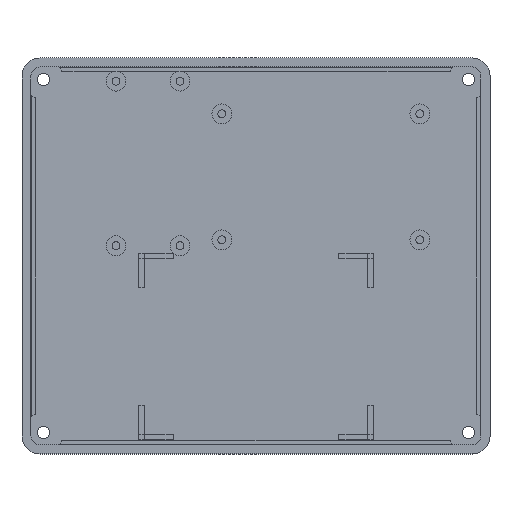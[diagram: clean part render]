
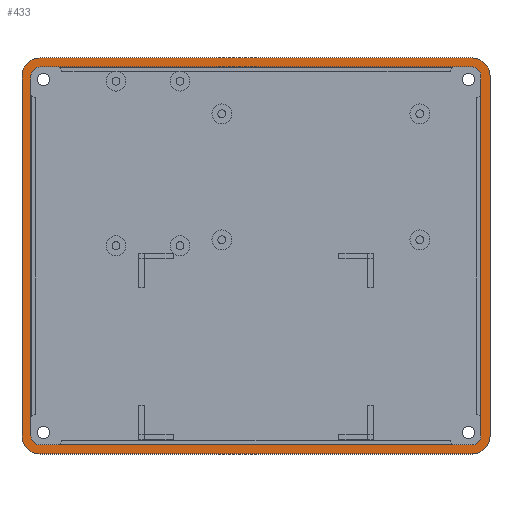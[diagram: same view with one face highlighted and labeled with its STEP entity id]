
A CAD part, top view. The second image highlights one B-rep face of the part: STEP entity #433.
In plain terms, the highlighted planar face has unit normal (0, 0, 1).
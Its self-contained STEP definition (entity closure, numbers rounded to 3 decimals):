
#143 = VERTEX_POINT('',#144);
#144 = CARTESIAN_POINT('',(-60.,0.,2.5));
#150 = EDGE_CURVE('',#143,#151,#153,.T.);
#151 = VERTEX_POINT('',#152);
#152 = CARTESIAN_POINT('',(60.,0.,2.5));
#153 = LINE('',#154,#155);
#154 = CARTESIAN_POINT('',(-132.5,0.,2.5));
#155 = VECTOR('',#156,1.);
#156 = DIRECTION('',(1.,0.,-0.));
#172 = EDGE_CURVE('',#143,#173,#175,.T.);
#173 = VERTEX_POINT('',#174);
#174 = CARTESIAN_POINT('',(-65.,5.,2.5));
#175 = CIRCLE('',#176,5.);
#176 = AXIS2_PLACEMENT_3D('',#177,#178,#179);
#177 = CARTESIAN_POINT('',(-60.,5.,2.5));
#178 = DIRECTION('',(0.,0.,-1.));
#179 = DIRECTION('',(0.,-1.,0.));
#197 = EDGE_CURVE('',#198,#151,#200,.T.);
#198 = VERTEX_POINT('',#199);
#199 = CARTESIAN_POINT('',(65.,5.,2.5));
#200 = CIRCLE('',#201,5.);
#201 = AXIS2_PLACEMENT_3D('',#202,#203,#204);
#202 = CARTESIAN_POINT('',(60.,5.,2.5));
#203 = DIRECTION('',(0.,0.,-1.));
#204 = DIRECTION('',(0.,-1.,0.));
#225 = VERTEX_POINT('',#226);
#226 = CARTESIAN_POINT('',(-65.,105.,2.5));
#232 = EDGE_CURVE('',#225,#173,#233,.T.);
#233 = LINE('',#234,#235);
#234 = CARTESIAN_POINT('',(-65.,-69.579,2.5));
#235 = VECTOR('',#236,1.);
#236 = DIRECTION('',(0.,-1.,0.));
#249 = VERTEX_POINT('',#250);
#250 = CARTESIAN_POINT('',(65.,105.,2.5));
#256 = EDGE_CURVE('',#249,#198,#257,.T.);
#257 = LINE('',#258,#259);
#258 = CARTESIAN_POINT('',(65.,-69.579,2.5));
#259 = VECTOR('',#260,1.);
#260 = DIRECTION('',(0.,-1.,0.));
#271 = VERTEX_POINT('',#272);
#272 = CARTESIAN_POINT('',(-60.,110.,2.5));
#280 = EDGE_CURVE('',#271,#225,#281,.T.);
#281 = CIRCLE('',#282,5.);
#282 = AXIS2_PLACEMENT_3D('',#283,#284,#285);
#283 = CARTESIAN_POINT('',(-60.,105.,2.5));
#284 = DIRECTION('',(0.,0.,1.));
#285 = DIRECTION('',(-0.,1.,0.));
#296 = VERTEX_POINT('',#297);
#297 = CARTESIAN_POINT('',(60.,110.,2.5));
#305 = EDGE_CURVE('',#249,#296,#306,.T.);
#306 = CIRCLE('',#307,5.);
#307 = AXIS2_PLACEMENT_3D('',#308,#309,#310);
#308 = CARTESIAN_POINT('',(60.,105.,2.5));
#309 = DIRECTION('',(0.,0.,1.));
#310 = DIRECTION('',(-0.,1.,0.));
#323 = EDGE_CURVE('',#296,#271,#324,.T.);
#324 = LINE('',#325,#326);
#325 = CARTESIAN_POINT('',(-132.5,110.,2.5));
#326 = VECTOR('',#327,1.);
#327 = DIRECTION('',(-1.,0.,0.));
#433 = ADVANCED_FACE('',(#434,#444),#514,.T.);
#434 = FACE_BOUND('',#435,.T.);
#435 = EDGE_LOOP('',(#436,#437,#438,#439,#440,#441,#442,#443));
#436 = ORIENTED_EDGE('',*,*,#172,.F.);
#437 = ORIENTED_EDGE('',*,*,#150,.T.);
#438 = ORIENTED_EDGE('',*,*,#197,.F.);
#439 = ORIENTED_EDGE('',*,*,#256,.F.);
#440 = ORIENTED_EDGE('',*,*,#305,.T.);
#441 = ORIENTED_EDGE('',*,*,#323,.T.);
#442 = ORIENTED_EDGE('',*,*,#280,.T.);
#443 = ORIENTED_EDGE('',*,*,#232,.T.);
#444 = FACE_BOUND('',#445,.T.);
#445 = EDGE_LOOP('',(#446,#457,#465,#474,#482,#491,#499,#508));
#446 = ORIENTED_EDGE('',*,*,#447,.T.);
#447 = EDGE_CURVE('',#448,#450,#452,.T.);
#448 = VERTEX_POINT('',#449);
#449 = CARTESIAN_POINT('',(-60.,2.5,2.5));
#450 = VERTEX_POINT('',#451);
#451 = CARTESIAN_POINT('',(-62.5,5.,2.5));
#452 = CIRCLE('',#453,2.5);
#453 = AXIS2_PLACEMENT_3D('',#454,#455,#456);
#454 = CARTESIAN_POINT('',(-60.,5.,2.5));
#455 = DIRECTION('',(0.,0.,-1.));
#456 = DIRECTION('',(0.,-1.,0.));
#457 = ORIENTED_EDGE('',*,*,#458,.T.);
#458 = EDGE_CURVE('',#450,#459,#461,.T.);
#459 = VERTEX_POINT('',#460);
#460 = CARTESIAN_POINT('',(-62.5,105.,2.5));
#461 = LINE('',#462,#463);
#462 = CARTESIAN_POINT('',(-62.5,30.421,2.5));
#463 = VECTOR('',#464,1.);
#464 = DIRECTION('',(0.,1.,0.));
#465 = ORIENTED_EDGE('',*,*,#466,.F.);
#466 = EDGE_CURVE('',#467,#459,#469,.T.);
#467 = VERTEX_POINT('',#468);
#468 = CARTESIAN_POINT('',(-60.,107.5,2.5));
#469 = CIRCLE('',#470,2.5);
#470 = AXIS2_PLACEMENT_3D('',#471,#472,#473);
#471 = CARTESIAN_POINT('',(-60.,105.,2.5));
#472 = DIRECTION('',(0.,0.,1.));
#473 = DIRECTION('',(-0.,1.,0.));
#474 = ORIENTED_EDGE('',*,*,#475,.T.);
#475 = EDGE_CURVE('',#467,#476,#478,.T.);
#476 = VERTEX_POINT('',#477);
#477 = CARTESIAN_POINT('',(60.,107.5,2.5));
#478 = LINE('',#479,#480);
#479 = CARTESIAN_POINT('',(-65.,107.5,2.5));
#480 = VECTOR('',#481,1.);
#481 = DIRECTION('',(1.,0.,-0.));
#482 = ORIENTED_EDGE('',*,*,#483,.F.);
#483 = EDGE_CURVE('',#484,#476,#486,.T.);
#484 = VERTEX_POINT('',#485);
#485 = CARTESIAN_POINT('',(62.5,105.,2.5));
#486 = CIRCLE('',#487,2.5);
#487 = AXIS2_PLACEMENT_3D('',#488,#489,#490);
#488 = CARTESIAN_POINT('',(60.,105.,2.5));
#489 = DIRECTION('',(0.,0.,1.));
#490 = DIRECTION('',(-0.,1.,0.));
#491 = ORIENTED_EDGE('',*,*,#492,.F.);
#492 = EDGE_CURVE('',#493,#484,#495,.T.);
#493 = VERTEX_POINT('',#494);
#494 = CARTESIAN_POINT('',(62.5,5.,2.5));
#495 = LINE('',#496,#497);
#496 = CARTESIAN_POINT('',(62.5,30.421,2.5));
#497 = VECTOR('',#498,1.);
#498 = DIRECTION('',(0.,1.,0.));
#499 = ORIENTED_EDGE('',*,*,#500,.T.);
#500 = EDGE_CURVE('',#493,#501,#503,.T.);
#501 = VERTEX_POINT('',#502);
#502 = CARTESIAN_POINT('',(60.,2.5,2.5));
#503 = CIRCLE('',#504,2.5);
#504 = AXIS2_PLACEMENT_3D('',#505,#506,#507);
#505 = CARTESIAN_POINT('',(60.,5.,2.5));
#506 = DIRECTION('',(0.,0.,-1.));
#507 = DIRECTION('',(0.,-1.,0.));
#508 = ORIENTED_EDGE('',*,*,#509,.T.);
#509 = EDGE_CURVE('',#501,#448,#510,.T.);
#510 = LINE('',#511,#512);
#511 = CARTESIAN_POINT('',(-65.,2.5,2.5));
#512 = VECTOR('',#513,1.);
#513 = DIRECTION('',(-1.,-0.,0.));
#514 = PLANE('',#515);
#515 = AXIS2_PLACEMENT_3D('',#516,#517,#518);
#516 = CARTESIAN_POINT('',(-200.,-200.,2.5));
#517 = DIRECTION('',(0.,0.,1.));
#518 = DIRECTION('',(1.,0.,-0.));
